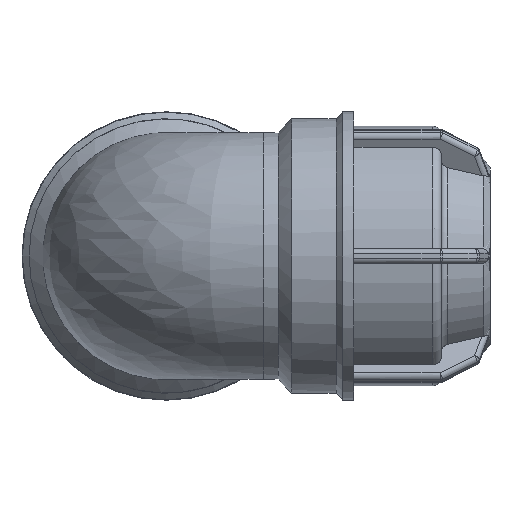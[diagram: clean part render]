
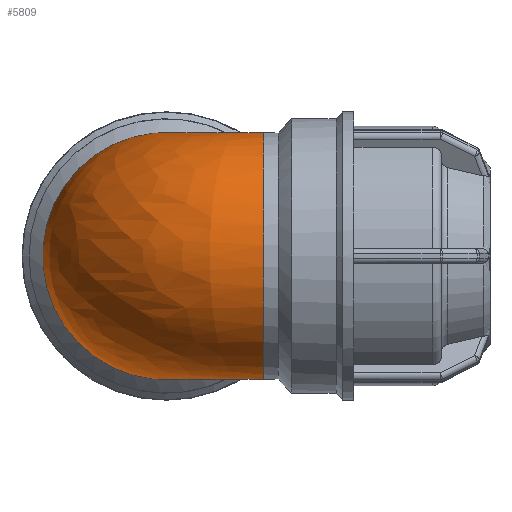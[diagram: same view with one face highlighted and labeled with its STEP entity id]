
A CAD part, front view. The second image highlights one B-rep face of the part: STEP entity #5809.
In plain terms, the highlighted free-form (B-spline) face has degree [2, 2] with [9, 3] control points.
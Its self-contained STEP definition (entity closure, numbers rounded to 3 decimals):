
#1374=FACE_OUTER_BOUND('',#1778,.T.);
#1778=EDGE_LOOP('',(#3990,#3991));
#2209=CIRCLE('',#6215,45.36);
#2210=CIRCLE('',#6216,45.36);
#2549=VERTEX_POINT('',#8843);
#2550=VERTEX_POINT('',#8844);
#3081=EDGE_CURVE('',#2549,#2550,#2209,.T.);
#3082=EDGE_CURVE('',#2550,#2549,#2210,.T.);
#3990=ORIENTED_EDGE('',*,*,#3081,.F.);
#3991=ORIENTED_EDGE('',*,*,#3082,.F.);
#5808=(
BOUNDED_SURFACE()
B_SPLINE_SURFACE(2,2,((#8816,#8817,#8818),(#8819,#8820,#8821),(#8822,#8823,
#8824),(#8825,#8826,#8827),(#8828,#8829,#8830),(#8831,#8832,#8833),(#8834,
#8835,#8836),(#8837,#8838,#8839),(#8840,#8841,#8842)),.UNSPECIFIED.,.F.,
 .F.,.F.)
B_SPLINE_SURFACE_WITH_KNOTS((3,2,2,2,3),(3,3),(-2.481,-1.24,
0.,1.24,2.481),(-3.142,-1.571),
 .UNSPECIFIED.)
GEOMETRIC_REPRESENTATION_ITEM()
RATIONAL_B_SPLINE_SURFACE(((1.,0.707,1.),(0.814,
0.575,0.814),(1.,0.707,1.),(0.814,
0.575,0.814),(1.,0.707,1.),(0.814,
0.575,0.814),(1.,0.707,1.),(0.814,
0.575,0.814),(1.,0.707,1.)))
REPRESENTATION_ITEM('')
SURFACE()
);
#5809=ADVANCED_FACE('',(#1374),#5808,.F.);
#6215=AXIS2_PLACEMENT_3D('',#8845,#6963,#6964);
#6216=AXIS2_PLACEMENT_3D('',#8846,#6965,#6966);
#6963=DIRECTION('center_axis',(1.,0.,0.));
#6964=DIRECTION('ref_axis',(0.,0.,-1.));
#6965=DIRECTION('center_axis',(0.,1.,0.));
#6966=DIRECTION('ref_axis',(0.,0.,-1.));
#8816=CARTESIAN_POINT('Ctrl Pts',(35.81,35.81,-27.842));
#8817=CARTESIAN_POINT('Ctrl Pts',(35.81,35.81,-27.842));
#8818=CARTESIAN_POINT('Ctrl Pts',(35.81,35.81,-27.842));
#8819=CARTESIAN_POINT('Ctrl Pts',(15.926,35.81,-53.417));
#8820=CARTESIAN_POINT('Ctrl Pts',(15.926,15.926,-53.417));
#8821=CARTESIAN_POINT('Ctrl Pts',(35.81,15.926,-53.417));
#8822=CARTESIAN_POINT('Ctrl Pts',(-14.717,35.81,-42.906));
#8823=CARTESIAN_POINT('Ctrl Pts',(-14.717,-14.717,-42.906));
#8824=CARTESIAN_POINT('Ctrl Pts',(35.81,-14.717,-42.906));
#8825=CARTESIAN_POINT('Ctrl Pts',(-45.36,35.81,-32.395));
#8826=CARTESIAN_POINT('Ctrl Pts',(-45.36,-45.36,-32.395));
#8827=CARTESIAN_POINT('Ctrl Pts',(35.81,-45.36,-32.395));
#8828=CARTESIAN_POINT('Ctrl Pts',(-45.36,35.81,0.));
#8829=CARTESIAN_POINT('Ctrl Pts',(-45.36,-45.36,0.));
#8830=CARTESIAN_POINT('Ctrl Pts',(35.81,-45.36,0.));
#8831=CARTESIAN_POINT('Ctrl Pts',(-45.36,35.81,32.395));
#8832=CARTESIAN_POINT('Ctrl Pts',(-45.36,-45.36,32.395));
#8833=CARTESIAN_POINT('Ctrl Pts',(35.81,-45.36,32.395));
#8834=CARTESIAN_POINT('Ctrl Pts',(-14.717,35.81,42.906));
#8835=CARTESIAN_POINT('Ctrl Pts',(-14.717,-14.717,42.906));
#8836=CARTESIAN_POINT('Ctrl Pts',(35.81,-14.717,42.906));
#8837=CARTESIAN_POINT('Ctrl Pts',(15.926,35.81,53.417));
#8838=CARTESIAN_POINT('Ctrl Pts',(15.926,15.926,53.417));
#8839=CARTESIAN_POINT('Ctrl Pts',(35.81,15.926,53.417));
#8840=CARTESIAN_POINT('Ctrl Pts',(35.81,35.81,27.842));
#8841=CARTESIAN_POINT('Ctrl Pts',(35.81,35.81,27.842));
#8842=CARTESIAN_POINT('Ctrl Pts',(35.81,35.81,27.842));
#8843=CARTESIAN_POINT('',(35.81,35.81,27.842));
#8844=CARTESIAN_POINT('',(35.81,35.81,-27.842));
#8845=CARTESIAN_POINT('Origin',(35.81,0.,0.));
#8846=CARTESIAN_POINT('Origin',(0.,35.81,0.));
